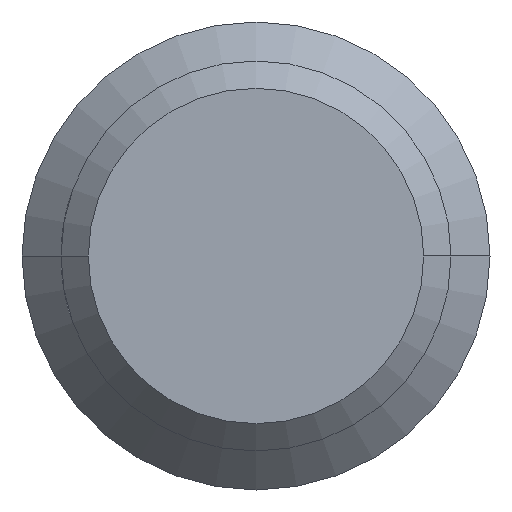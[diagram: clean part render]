
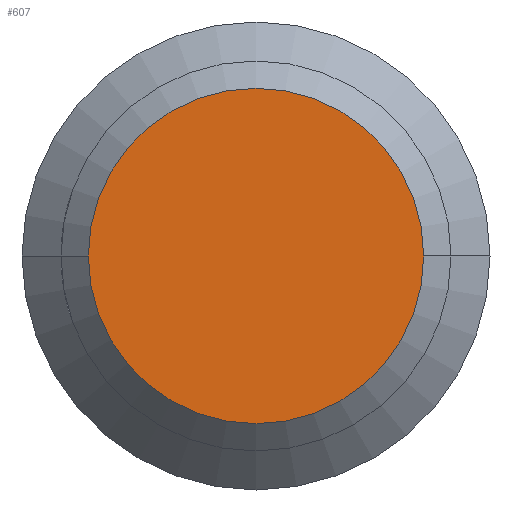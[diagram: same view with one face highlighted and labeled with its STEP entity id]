
A CAD part, left-side view. The second image highlights one B-rep face of the part: STEP entity #607.
In plain terms, the highlighted planar face has unit normal (-1, 0, 0).
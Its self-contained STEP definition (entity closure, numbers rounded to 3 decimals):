
#16 = EDGE_CURVE ( 'NONE', #423, #609, #285, .T. ) ;
#47 = ORIENTED_EDGE ( 'NONE', *, *, #16, .T. ) ;
#57 = CARTESIAN_POINT ( 'NONE',  ( -177., 21.5, 0. ) ) ;
#183 = FACE_OUTER_BOUND ( 'NONE', #422, .T. ) ;
#184 = PLANE ( 'NONE',  #185 ) ;
#185 = AXIS2_PLACEMENT_3D ( 'NONE', #186, #187, #188 ) ;
#186 = CARTESIAN_POINT ( 'NONE',  ( -177., 0., 0. ) ) ;
#187 = DIRECTION ( 'NONE',  ( -1., 0., 0. ) ) ;
#188 = DIRECTION ( 'NONE',  ( 0., -1., 0. ) ) ;
#189 = CARTESIAN_POINT ( 'NONE',  ( -177., -21.5, 0. ) ) ;
#285 = CIRCLE ( 'NONE', #286, 21.5 ) ;
#286 = AXIS2_PLACEMENT_3D ( 'NONE', #287, #288, #289 ) ;
#287 = CARTESIAN_POINT ( 'NONE',  ( -177., 0., 0. ) ) ;
#288 = DIRECTION ( 'NONE',  ( -1., 0., 0. ) ) ;
#289 = DIRECTION ( 'NONE',  ( 0., -1., 0. ) ) ;
#358 = CIRCLE ( 'NONE', #359, 21.5 ) ;
#359 = AXIS2_PLACEMENT_3D ( 'NONE', #360, #361, #362 ) ;
#360 = CARTESIAN_POINT ( 'NONE',  ( -177., 0., 0. ) ) ;
#361 = DIRECTION ( 'NONE',  ( -1., 0., 0. ) ) ;
#362 = DIRECTION ( 'NONE',  ( 0., -1., 0. ) ) ;
#422 = EDGE_LOOP ( 'NONE', ( #47, #673 ) ) ;
#423 = VERTEX_POINT ( 'NONE', #57 ) ;
#607 = ADVANCED_FACE ( 'NONE', ( #183 ), #184, .T. ) ;
#609 = VERTEX_POINT ( 'NONE', #189 ) ;
#630 = EDGE_CURVE ( 'NONE', #609, #423, #358, .T. ) ;
#673 = ORIENTED_EDGE ( 'NONE', *, *, #630, .T. ) ;
